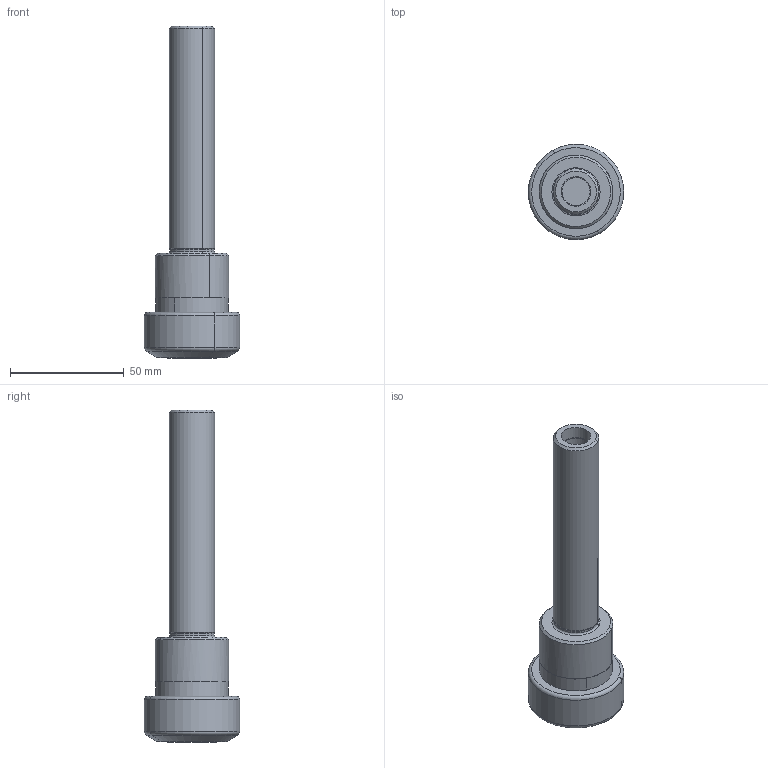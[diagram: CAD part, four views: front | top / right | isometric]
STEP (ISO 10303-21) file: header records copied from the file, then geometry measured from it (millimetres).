
FILE_DESCRIPTION(('CATIA V5 STEP','CAx-IF Rec.Pracs.--- Model Styling and Organization---1.2---2011-12-15'),'2;1');
FILE_NAME('\\nas01\drv1\utils\eitdev\rte\eit\transmagicconvert\db\out\635959873050264134\4502042 LM.stp','2016-04-11T13:01:59+00:00',('none'),('none'),'CATIA Version 5 Release 21 SP 5 (IN-10)','CATIA V5 STEP AP214','none');
FILE_SCHEMA(('AUTOMOTIVE_DESIGN { 1 0 10303 214 1 1 1 1 }'));
Length unit declared in the file: millimetre
Products named in the file (1): ST 20X100 ER25 F
Bounding box: 41.99 x 41.99 x 146.04 mm (x, y, z)
Volume: 60303.2 mm3; surface area: 17603.5 mm2
Topology: 1 solids, 1 shells, 53 faces, 112 edges, 66 vertices
Faces by surface type: cylinder 20, cone 14, torus 10, plane 7, extrusion 2
Entity records: 1455 total; most frequent: CARTESIAN_POINT 400, ORIENTED_EDGE 224, DIRECTION 170, EDGE_CURVE 112, AXIS2_PLACEMENT_3D 101, CIRCLE 68, VERTEX_POINT 66, EDGE_LOOP 58
